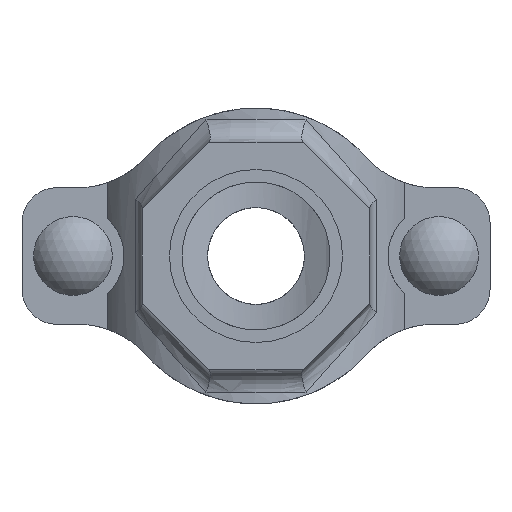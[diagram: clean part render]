
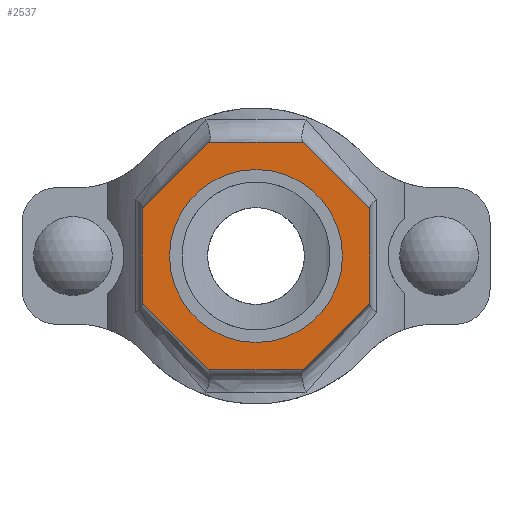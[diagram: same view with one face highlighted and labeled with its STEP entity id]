
A CAD part, front view. The second image highlights one B-rep face of the part: STEP entity #2537.
In plain terms, the highlighted planar face has unit normal (0, -1, 0) as drawn and (0, 1, 0) by its records, which use the part's own axes.
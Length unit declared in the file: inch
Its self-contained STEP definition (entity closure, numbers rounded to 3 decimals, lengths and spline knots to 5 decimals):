
#186=FACE_BOUND('',#457,.T.);
#305=FACE_OUTER_BOUND('',#456,.T.);
#456=EDGE_LOOP('',(#2126,#2127,#2128,#2129,#2130,#2131,#2132,#2133));
#457=EDGE_LOOP('',(#2134));
#594=LINE('',#4601,#780);
#597=LINE('',#4606,#783);
#599=LINE('',#4610,#785);
#601=LINE('',#4614,#787);
#637=LINE('',#5027,#823);
#639=LINE('',#5031,#825);
#641=LINE('',#5035,#827);
#643=LINE('',#5038,#829);
#780=VECTOR('',#3278,0.3937);
#783=VECTOR('',#3283,0.3937);
#785=VECTOR('',#3287,0.3937);
#787=VECTOR('',#3291,0.3937);
#823=VECTOR('',#3415,0.3937);
#825=VECTOR('',#3419,0.3937);
#827=VECTOR('',#3423,0.3937);
#829=VECTOR('',#3427,0.3937);
#915=CIRCLE('',#2798,0.95);
#1097=VERTEX_POINT('',#4598);
#1098=VERTEX_POINT('',#4600);
#1099=VERTEX_POINT('',#4604);
#1100=VERTEX_POINT('',#4608);
#1101=VERTEX_POINT('',#4612);
#1132=VERTEX_POINT('',#4876);
#1156=VERTEX_POINT('',#5026);
#1157=VERTEX_POINT('',#5030);
#1158=VERTEX_POINT('',#5034);
#1408=EDGE_CURVE('',#1098,#1097,#594,.T.);
#1411=EDGE_CURVE('',#1097,#1099,#597,.T.);
#1413=EDGE_CURVE('',#1099,#1100,#599,.T.);
#1415=EDGE_CURVE('',#1100,#1101,#601,.T.);
#1457=EDGE_CURVE('',#1132,#1132,#915,.T.);
#1489=EDGE_CURVE('',#1156,#1098,#637,.T.);
#1491=EDGE_CURVE('',#1157,#1156,#639,.T.);
#1493=EDGE_CURVE('',#1158,#1157,#641,.T.);
#1495=EDGE_CURVE('',#1101,#1158,#643,.T.);
#2126=ORIENTED_EDGE('',*,*,#1495,.T.);
#2127=ORIENTED_EDGE('',*,*,#1493,.T.);
#2128=ORIENTED_EDGE('',*,*,#1491,.T.);
#2129=ORIENTED_EDGE('',*,*,#1489,.T.);
#2130=ORIENTED_EDGE('',*,*,#1408,.T.);
#2131=ORIENTED_EDGE('',*,*,#1411,.T.);
#2132=ORIENTED_EDGE('',*,*,#1413,.T.);
#2133=ORIENTED_EDGE('',*,*,#1415,.T.);
#2134=ORIENTED_EDGE('',*,*,#1457,.T.);
#2278=PLANE('',#2821);
#2537=ADVANCED_FACE('',(#305,#186),#2278,.T.);
#2798=AXIS2_PLACEMENT_3D('',#4877,#3361,#3362);
#2821=AXIS2_PLACEMENT_3D('',#5039,#3428,#3429);
#3278=DIRECTION('',(0.,0.,1.));
#3283=DIRECTION('',(0.707,0.,0.707));
#3287=DIRECTION('',(1.,0.,0.));
#3291=DIRECTION('',(0.707,0.,-0.707));
#3361=DIRECTION('center_axis',(0.,-1.,0.));
#3362=DIRECTION('ref_axis',(-1.,0.,0.));
#3415=DIRECTION('',(-0.707,0.,0.707));
#3419=DIRECTION('',(-1.,0.,0.));
#3423=DIRECTION('',(-0.707,0.,-0.707));
#3427=DIRECTION('',(0.,0.,-1.));
#3428=DIRECTION('center_axis',(0.,1.,0.));
#3429=DIRECTION('ref_axis',(0.,0.,1.));
#4598=CARTESIAN_POINT('',(-1.25,3.,0.51777));
#4600=CARTESIAN_POINT('',(-1.25,3.,-0.51777));
#4601=CARTESIAN_POINT('',(-1.25,3.,0.51777));
#4604=CARTESIAN_POINT('',(-0.51777,3.,1.25));
#4606=CARTESIAN_POINT('',(-0.51777,3.,1.25));
#4608=CARTESIAN_POINT('',(0.51777,3.,1.25));
#4610=CARTESIAN_POINT('',(0.51777,3.,1.25));
#4612=CARTESIAN_POINT('',(1.25,3.,0.51777));
#4614=CARTESIAN_POINT('',(1.25,3.,0.51777));
#4876=CARTESIAN_POINT('',(0.95,3.,0.));
#4877=CARTESIAN_POINT('Origin',(0.,3.,0.));
#5026=CARTESIAN_POINT('',(-0.51777,3.,-1.25));
#5027=CARTESIAN_POINT('',(-1.25,3.,-0.51777));
#5030=CARTESIAN_POINT('',(0.51777,3.,-1.25));
#5031=CARTESIAN_POINT('',(-0.51777,3.,-1.25));
#5034=CARTESIAN_POINT('',(1.25,3.,-0.51777));
#5035=CARTESIAN_POINT('',(0.51777,3.,-1.25));
#5038=CARTESIAN_POINT('',(1.25,3.,-0.51777));
#5039=CARTESIAN_POINT('Origin',(0.,3.,0.));
